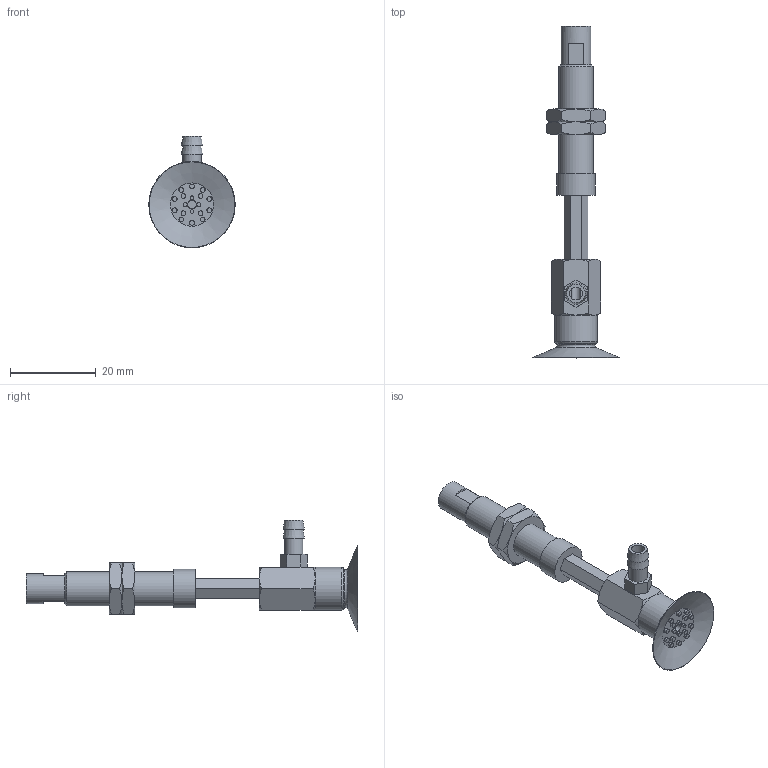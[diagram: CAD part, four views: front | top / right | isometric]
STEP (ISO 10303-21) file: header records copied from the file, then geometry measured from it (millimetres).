
FILE_DESCRIPTION(('STEP AP203'),'1');
FILE_NAME('-T.stp','2025-03-13T03:26:47',(' '),(' '),'Spatial InterOp 3D',' ',' ');
FILE_SCHEMA(('CONFIG_CONTROL_DESIGN'));
Length unit declared in the file: millimetre
Products named in the file (7): BNABPAYH-20A-15-※-T; NAPATH-20A-15--M; NAPATH-20A-15--F; Nut-10A-S; CONNECTOR-20A-15-PA; CONNECTOR-10A-3-T-PA; BPAG-20A-※
Assembly tree (7 placements, depth 2):
  BNABPAYH-20A-15-※-T
    NAPATH-20A-15--M
    NAPATH-20A-15--F
    Nut-10A-S  x2
    CONNECTOR-20A-15-PA
    CONNECTOR-10A-3-T-PA
    BPAG-20A-※
Bounding box: 20.19 x 77.5 x 26.09 mm (x, y, z)
Volume: 4434.2 mm3; surface area: 5844.9 mm2
Topology: 7 solids, 7 shells, 193 faces, 390 edges, 242 vertices
Faces by surface type: plane 93, cone 54, cylinder 36, torus 10
Full cylindrical faces by diameter (mm): 0.9 x4, 1.1 x14, 2 x2, 3 x1, 4 x2, 4.134 x2, 4.3 x1, 5 x2, 6 x2, 7 x1, 7.188 x2, 8 x1, 9 x1, 10 x1
Entity records: 4646 total; most frequent: CARTESIAN_POINT 1006, DIRECTION 702, ORIENTED_EDGE 548, AXIS2_PLACEMENT_3D 304, EDGE_CURVE 274, EDGE_LOOP 272, FACE_OUTER_BOUND 215, VERTEX_POINT 206
